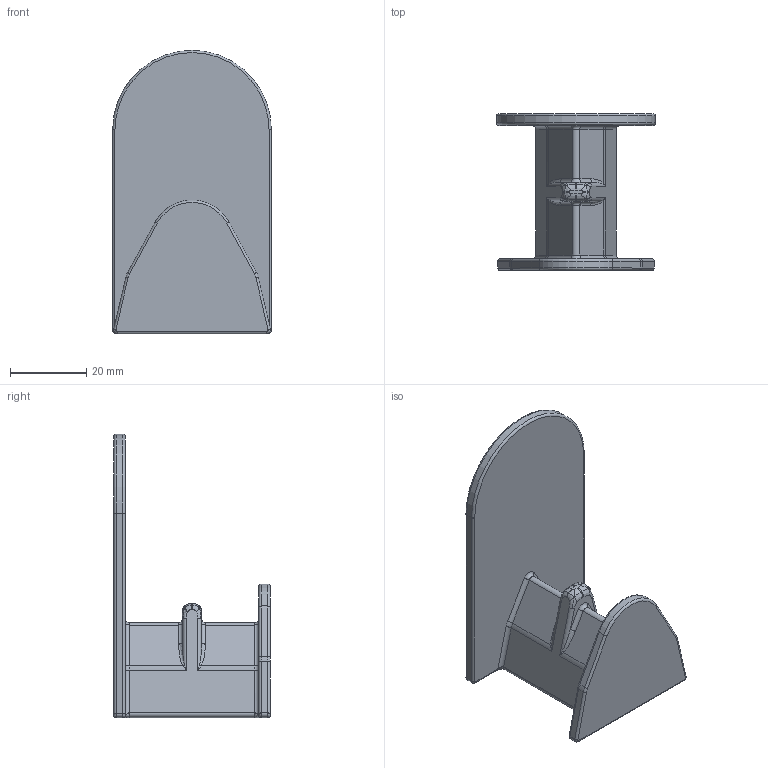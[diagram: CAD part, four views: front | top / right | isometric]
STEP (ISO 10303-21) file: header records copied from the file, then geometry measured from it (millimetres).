
FILE_DESCRIPTION(/* description */ (''),/* implementation_level */ '2;1');
FILE_NAME(/* name */ 'Wire Cutter Holder - Double.step',/* time_stamp */ '2025-11-19T10:21:54-08:00',/* author */ (''),/* organization */ (''),/* preprocessor_version */ 'ST-DEVELOPER v20.1',/* originating_system */ 'Autodesk Translation Framework v14.21.0.0',/* authorisation */ '');
FILE_SCHEMA (('AUTOMOTIVE_DESIGN { 1 0 10303 214 3 1 1 }'));
Length unit declared in the file: millimetre
Products named in the file (1): Holder
Bounding box: 41.6 x 41 x 74.3 mm (x, y, z)
Volume: 23887.8 mm3; surface area: 10829.5 mm2
Topology: 1 solids, 1 shells, 134 faces, 320 edges, 184 vertices
Faces by surface type: cylinder 54, bspline 44, plane 20, torus 16
Entity records: 7709 total; most frequent: CARTESIAN_POINT 4768, ORIENTED_EDGE 632, DIRECTION 578, EDGE_CURVE 316, AXIS2_PLACEMENT_3D 235, VERTEX_POINT 184, CIRCLE 136, FACE_OUTER_BOUND 134
